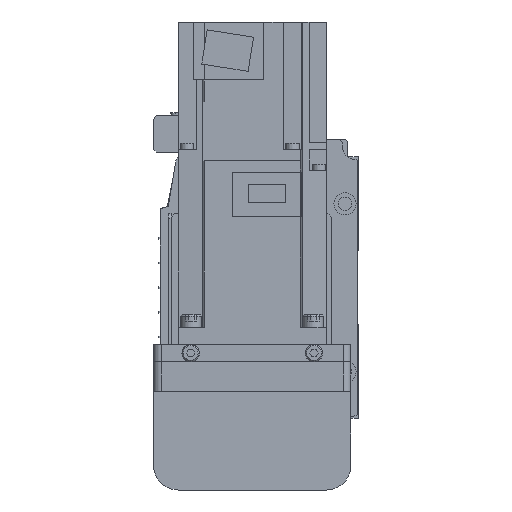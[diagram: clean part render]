
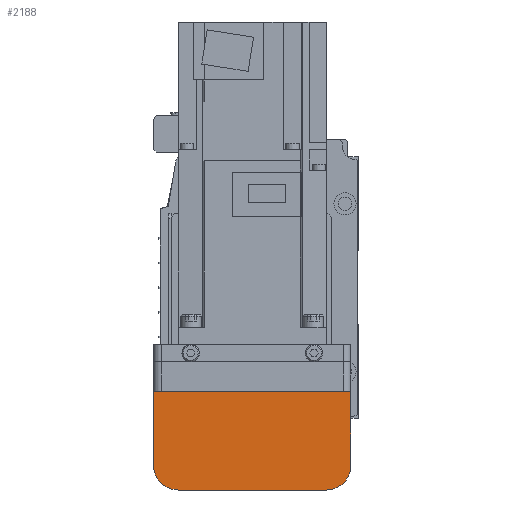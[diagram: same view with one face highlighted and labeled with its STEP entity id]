
A CAD part, left-side view. The second image highlights one B-rep face of the part: STEP entity #2188.
In plain terms, the highlighted planar face has unit normal (-1, 0, 0).
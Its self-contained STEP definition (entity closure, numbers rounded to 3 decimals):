
#2188 = ADVANCED_FACE( '', ( #4539 ), #4540, .F. );
#4539 = FACE_OUTER_BOUND( '', #6931, .T. );
#4540 = PLANE( '', #6932 );
#6931 = EDGE_LOOP( '', ( #12971, #12972, #12973, #12974, #12975, #12976 ) );
#6932 = AXIS2_PLACEMENT_3D( '', #12977, #12978, #12979 );
#12971 = ORIENTED_EDGE( '', *, *, #15908, .F. );
#12972 = ORIENTED_EDGE( '', *, *, #15951, .F. );
#12973 = ORIENTED_EDGE( '', *, *, #14831, .F. );
#12974 = ORIENTED_EDGE( '', *, *, #15570, .F. );
#12975 = ORIENTED_EDGE( '', *, *, #14415, .F. );
#12976 = ORIENTED_EDGE( '', *, *, #15952, .F. );
#12977 = CARTESIAN_POINT( '', ( -192., 37., 7. ) );
#12978 = DIRECTION( '', ( 1., 0., 0. ) );
#12979 = DIRECTION( '', ( 0., 0., -1. ) );
#14415 = EDGE_CURVE( '', #17503, #17505, #17506, .T. );
#14831 = EDGE_CURVE( '', #18163, #18165, #18166, .T. );
#15570 = EDGE_CURVE( '', #17505, #18163, #19173, .T. );
#15908 = EDGE_CURVE( '', #17701, #19567, #19568, .T. );
#15951 = EDGE_CURVE( '', #18165, #17701, #19615, .T. );
#15952 = EDGE_CURVE( '', #19567, #17503, #19616, .T. );
#17503 = VERTEX_POINT( '', #21660 );
#17505 = VERTEX_POINT( '', #21663 );
#17506 = CIRCLE( '', #21664, 10. );
#17701 = VERTEX_POINT( '', #21927 );
#18163 = VERTEX_POINT( '', #22554 );
#18165 = VERTEX_POINT( '', #22557 );
#18166 = CIRCLE( '', #22558, 10. );
#19173 = LINE( '', #23909, #23910 );
#19567 = VERTEX_POINT( '', #24439 );
#19568 = LINE( '', #24440, #24441 );
#19615 = LINE( '', #24498, #24499 );
#19616 = LINE( '', #24500, #24501 );
#21660 = CARTESIAN_POINT( '', ( -192., -40., -42. ) );
#21663 = CARTESIAN_POINT( '', ( -192., -30., -52. ) );
#21664 = AXIS2_PLACEMENT_3D( '', #25690, #25691, #25692 );
#21927 = CARTESIAN_POINT( '', ( -192., 40., -12.1 ) );
#22554 = CARTESIAN_POINT( '', ( -192., 30., -52. ) );
#22557 = CARTESIAN_POINT( '', ( -192., 40., -42. ) );
#22558 = AXIS2_PLACEMENT_3D( '', #26200, #26201, #26202 );
#23909 = CARTESIAN_POINT( '', ( -192., -30., -52. ) );
#23910 = VECTOR( '', #27087, 1000. );
#24439 = CARTESIAN_POINT( '', ( -192., -40., -12.1 ) );
#24440 = CARTESIAN_POINT( '', ( -192., 50., -12.1 ) );
#24441 = VECTOR( '', #27355, 1000. );
#24498 = CARTESIAN_POINT( '', ( -192., 40., -42. ) );
#24499 = VECTOR( '', #27375, 1000. );
#24500 = CARTESIAN_POINT( '', ( -192., -40., -12.1 ) );
#24501 = VECTOR( '', #27376, 1000. );
#25690 = CARTESIAN_POINT( '', ( -192., -30., -42. ) );
#25691 = DIRECTION( '', ( 1., 0., 0. ) );
#25692 = DIRECTION( '', ( 0., 0., -1. ) );
#26200 = CARTESIAN_POINT( '', ( -192., 30., -42. ) );
#26201 = DIRECTION( '', ( 1., 0., 0. ) );
#26202 = DIRECTION( '', ( 0., 0., -1. ) );
#27087 = DIRECTION( '', ( 0., 1., 0. ) );
#27355 = DIRECTION( '', ( 0., -1., 0. ) );
#27375 = DIRECTION( '', ( 0., 0., 1. ) );
#27376 = DIRECTION( '', ( 0., 0., -1. ) );
